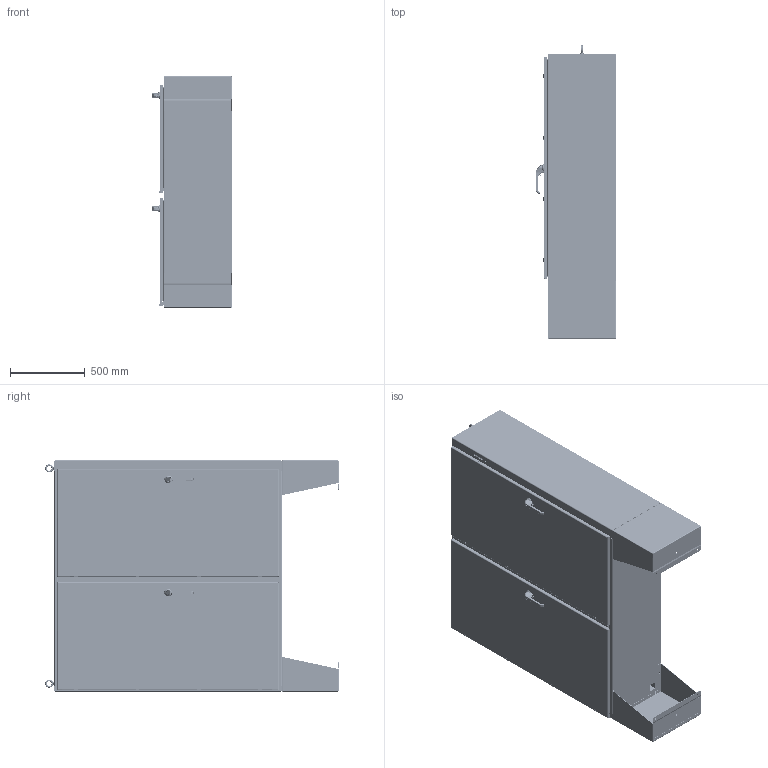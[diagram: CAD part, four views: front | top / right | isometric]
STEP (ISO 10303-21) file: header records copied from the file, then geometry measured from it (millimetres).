
FILE_DESCRIPTION((''),'2;1');
FILE_NAME('MODEL-130_ASM','2021-06-15T16:11:32',('johnh'),('SAGINAW CONTROL & ENGINEERING'),'CREO PARAMETRIC BY PTC INC, 2017260','CREO PARAMETRIC BY PTC INC, 2017260','');
FILE_SCHEMA(('AUTOMOTIVE_DESIGN { 1 0 10303 214 1 1 1 1 }'));
Length unit declared in the file: inch
Products named in the file (123): MODEL-130-BTM; MODEL-130-RS; MODEL-130-LS; MODEL-130-BCK; MODEL-130-TP; MODEL-130-MN-DR; 100837; 111267; 100882; 100952_HANDLE; 100952_HANDLE_INSERT; 100952_SHAFT_CAM; 100952_ADAPTER_CAM; 100952_NUT_CAM; 100952_BASE; 100952_O-RING; 100952_WASHER_SEALING; 100952_NUT_MOUNTING_LARGE; 100952_NUT_MOUNTING_SMALL; 100952_SCREW_SMALL; 100952_INSERT; 100952_PADLOCK_CATCH; 100952_ASM; 102237; 100030; 102237_ASM; MODEL-130-ROD-UPR-MD; 128146; 128145; 128144; 102482; MODEL-130-ROD-UPR-MD_ASM; 128143; 112504; MODEL-130-ROD-LWR-MD; MODEL-130-ROD-LWR-MD_ASM; MODEL-130-PR-GSKT-M; 128257; 126397; 128257_ASM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
Assembly tree (262 placements, depth 4):
  MODEL-130_ASM
    MODEL-130-BTM
    MODEL-130-RS
    MODEL-130-LS
    MODEL-130-BCK
    MODEL-130-TP
    MODEL-130-M-DOOR-ASSY_ASM
      MODEL-130-MN-DR
      100837  x7
      111267
      100882  x12
      100952_ASM
        100952_HANDLE
        100952_HANDLE_INSERT
        100952_SHAFT_CAM
        100952_ADAPTER_CAM
        100952_NUT_CAM
        100952_BASE
        100952_O-RING
        100952_WASHER_SEALING
        100952_NUT_MOUNTING_LARGE
        100952_NUT_MOUNTING_SMALL
        100952_SCREW_SMALL
        100952_INSERT
        100952_PADLOCK_CATCH
      102237_ASM
        102237
        100030  x2
      MODEL-130-ROD-UPR-MD_ASM
        MODEL-130-ROD-UPR-MD
        128146
        128145
        128144
        102482  x2
      128143  x2
      112504  x2
      MODEL-130-ROD-LWR-MD_ASM
        MODEL-130-ROD-LWR-MD
        128146
        128145
        128144
        102482  x2
      MODEL-130-PR-GSKT-M
      128257_ASM  x4
        128257
        126397
      126393  x4
      102483  x4
      101369_ASM  x4
        101369
        101369-STUD
      101221  x4
    MODEL-130-S-DOOR-ASSY_ASM
      MODEL-130-SEC-DR
      100837  x3
      100956_ASM
        100956_HANDLE
        100956_HANDLE_INSERT
        100956_SHAFT_CAM
        100956_ADAPTER_CAM
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Bounding box: 534.57 x 1966.16 x 1549.4 mm (x, y, z)
Volume: 34213861.7 mm3; surface area: 24514591.9 mm2
Topology: 280 solids, 280 shells, 21032 faces, 54217 edges, 33765 vertices
Faces by surface type: plane 7511, cylinder 5627, bspline 4666, torus 1353, cone 1327, sphere 548
Entity records: 407086 total; most frequent: CARTESIAN_POINT 121618, ORIENTED_EDGE 41214, DIRECTION 39010, EDGE_CURVE 20607, PRESENTATION_STYLE_ASSIGNMENT 20074, STYLED_ITEM 19770, CURVE_STYLE 18942, AXIS2_PLACEMENT_3D 14543
